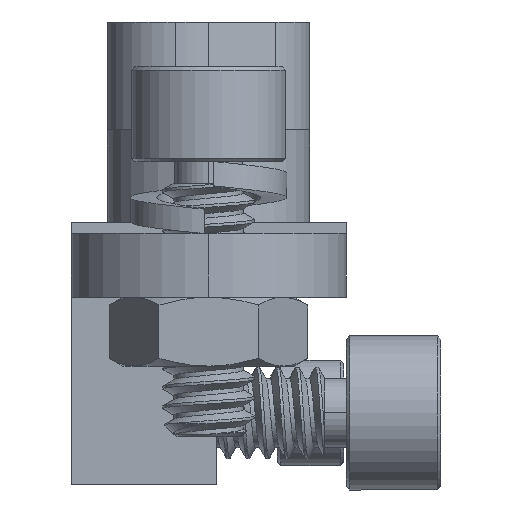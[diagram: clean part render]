
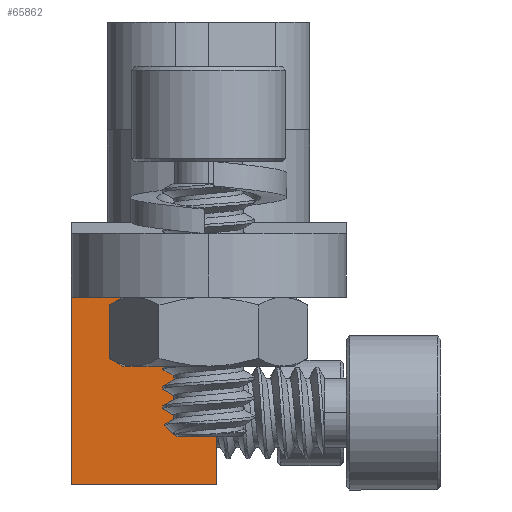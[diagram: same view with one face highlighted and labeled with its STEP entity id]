
A CAD part, left-side view. The second image highlights one B-rep face of the part: STEP entity #65862.
In plain terms, the highlighted planar face has unit normal (-1, 0, 0).
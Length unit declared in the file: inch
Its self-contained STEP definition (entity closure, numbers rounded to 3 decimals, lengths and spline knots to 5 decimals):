
#1375 = VERTEX_POINT ( 'NONE', #21974 ) ;
#2233 = ORIENTED_EDGE ( 'NONE', *, *, #53349, .F. ) ;
#2890 = CARTESIAN_POINT ( 'NONE',  ( -0.535, -0.007, -0.199 ) ) ;
#4325 = LINE ( 'NONE', #29210, #64239 ) ;
#7522 = VECTOR ( 'NONE', #8520, 39.37008 ) ;
#8520 = DIRECTION ( 'NONE',  ( 0., 0., 1. ) ) ;
#9398 = CARTESIAN_POINT ( 'NONE',  ( -0.535, 0.125, -0.199 ) ) ;
#14849 = VERTEX_POINT ( 'NONE', #53232 ) ;
#15217 = CARTESIAN_POINT ( 'NONE',  ( -0.535, 0.125, -0.199 ) ) ;
#15901 = LINE ( 'NONE', #31831, #57116 ) ;
#16067 = ORIENTED_EDGE ( 'NONE', *, *, #28522, .T. ) ;
#19297 = EDGE_CURVE ( 'NONE', #54017, #1375, #15901, .T. ) ;
#19771 = PLANE ( 'NONE',  #58204 ) ;
#20371 = LINE ( 'NONE', #9398, #54774 ) ;
#21974 = CARTESIAN_POINT ( 'NONE',  ( -0.535, 0.125, -0.029 ) ) ;
#22052 = VERTEX_POINT ( 'NONE', #15217 ) ;
#23060 = CARTESIAN_POINT ( 'NONE',  ( -0.535, -0.007, -0.029 ) ) ;
#28522 = EDGE_CURVE ( 'NONE', #14849, #54017, #56314, .T. ) ;
#29210 = CARTESIAN_POINT ( 'NONE',  ( -0.535, 0.125, -0.199 ) ) ;
#29555 = DIRECTION ( 'NONE',  ( 0., 0., 1. ) ) ;
#31831 = CARTESIAN_POINT ( 'NONE',  ( -0.535, 0.125, -0.029 ) ) ;
#32002 = EDGE_LOOP ( 'NONE', ( #52944, #46464, #2233, #16067 ) ) ;
#35690 = DIRECTION ( 'NONE',  ( 1., 0., 0. ) ) ;
#41367 = CARTESIAN_POINT ( 'NONE',  ( -0.535, 0.125, -0.199 ) ) ;
#46464 = ORIENTED_EDGE ( 'NONE', *, *, #64517, .F. ) ;
#50941 = DIRECTION ( 'NONE',  ( 0., 0., -1. ) ) ;
#52940 = DIRECTION ( 'NONE',  ( 0., 1., 0. ) ) ;
#52944 = ORIENTED_EDGE ( 'NONE', *, *, #19297, .T. ) ;
#53232 = CARTESIAN_POINT ( 'NONE',  ( -0.535, -0.007, -0.199 ) ) ;
#53349 = EDGE_CURVE ( 'NONE', #14849, #22052, #20371, .T. ) ;
#54017 = VERTEX_POINT ( 'NONE', #23060 ) ;
#54774 = VECTOR ( 'NONE', #52940, 39.37008 ) ;
#56314 = LINE ( 'NONE', #2890, #7522 ) ;
#57116 = VECTOR ( 'NONE', #63340, 39.37008 ) ;
#57282 = FACE_OUTER_BOUND ( 'NONE', #32002, .T. ) ;
#58204 = AXIS2_PLACEMENT_3D ( 'NONE', #41367, #35690, #50941 ) ;
#63340 = DIRECTION ( 'NONE',  ( 0., 1., 0. ) ) ;
#64239 = VECTOR ( 'NONE', #29555, 39.37008 ) ;
#64517 = EDGE_CURVE ( 'NONE', #22052, #1375, #4325, .T. ) ;
#65862 = ADVANCED_FACE ( 'NONE', ( #57282 ), #19771, .F. ) ;
